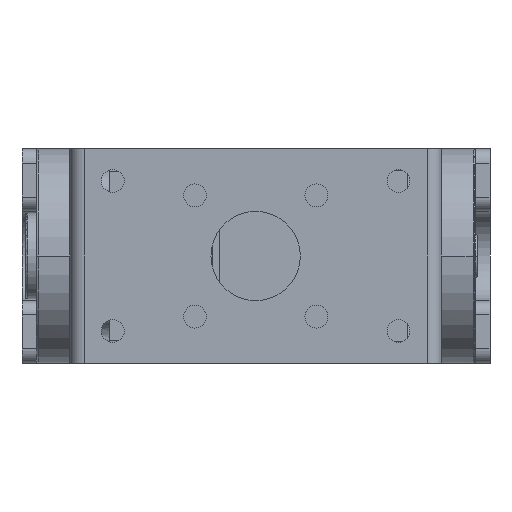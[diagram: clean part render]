
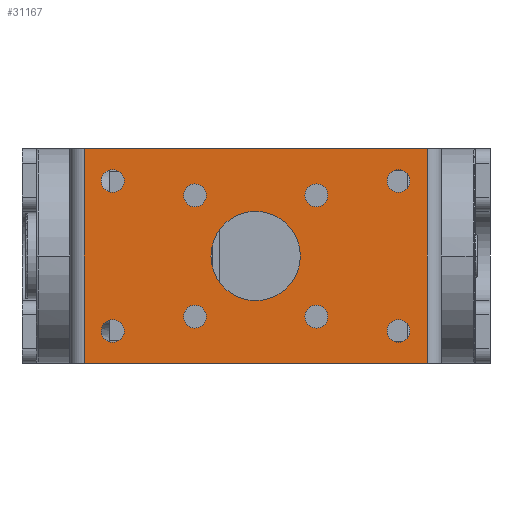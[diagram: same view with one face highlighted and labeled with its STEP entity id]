
A CAD part, left-side view. The second image highlights one B-rep face of the part: STEP entity #31167.
In plain terms, the highlighted planar face has unit normal (-1, 0, 0).
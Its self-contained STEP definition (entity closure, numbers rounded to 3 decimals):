
#29739=DIRECTION('',(0.,1.,0.));
#29740=VECTOR('',#29739,48.);
#29741=CARTESIAN_POINT('',(-40.,-31.5,15.));
#29742=LINE('',#29741,#29740);
#29842=DIRECTION('',(0.,0.,1.));
#29843=VECTOR('',#29842,30.);
#29844=CARTESIAN_POINT('',(-40.,16.5,-15.));
#29845=LINE('',#29844,#29843);
#29846=DIRECTION('',(0.,0.,-1.));
#29847=VECTOR('',#29846,30.);
#29848=CARTESIAN_POINT('',(-40.,-31.5,15.));
#29849=LINE('',#29848,#29847);
#29850=DIRECTION('',(0.,1.,0.));
#29851=VECTOR('',#29850,48.);
#29852=CARTESIAN_POINT('',(-40.,-31.5,-15.));
#29853=LINE('',#29852,#29851);
#29854=CARTESIAN_POINT('',(-40.,-7.5,0.));
#29855=DIRECTION('',(-1.,0.,0.));
#29856=DIRECTION('',(0.,0.,-1.));
#29857=AXIS2_PLACEMENT_3D('',#29854,#29855,#29856);
#29859=CARTESIAN_POINT('',(-40.,-7.5,0.));
#29860=DIRECTION('',(-1.,0.,0.));
#29861=DIRECTION('',(0.,0.,1.));
#29862=AXIS2_PLACEMENT_3D('',#29859,#29860,#29861);
#29864=CARTESIAN_POINT('',(-40.,1.,-8.5));
#29865=DIRECTION('',(-1.,0.,0.));
#29866=DIRECTION('',(0.,0.,1.));
#29867=AXIS2_PLACEMENT_3D('',#29864,#29865,#29866);
#29869=CARTESIAN_POINT('',(-40.,1.,-8.5));
#29870=DIRECTION('',(-1.,0.,0.));
#29871=DIRECTION('',(0.,0.,-1.));
#29872=AXIS2_PLACEMENT_3D('',#29869,#29870,#29871);
#29874=CARTESIAN_POINT('',(-40.,1.,8.5));
#29875=DIRECTION('',(-1.,0.,0.));
#29876=DIRECTION('',(0.,0.,1.));
#29877=AXIS2_PLACEMENT_3D('',#29874,#29875,#29876);
#29879=CARTESIAN_POINT('',(-40.,1.,8.5));
#29880=DIRECTION('',(-1.,0.,0.));
#29881=DIRECTION('',(0.,0.,-1.));
#29882=AXIS2_PLACEMENT_3D('',#29879,#29880,#29881);
#29884=CARTESIAN_POINT('',(-40.,-16.,-8.5));
#29885=DIRECTION('',(-1.,0.,0.));
#29886=DIRECTION('',(0.,0.,1.));
#29887=AXIS2_PLACEMENT_3D('',#29884,#29885,#29886);
#29889=CARTESIAN_POINT('',(-40.,-16.,-8.5));
#29890=DIRECTION('',(-1.,0.,0.));
#29891=DIRECTION('',(0.,0.,-1.));
#29892=AXIS2_PLACEMENT_3D('',#29889,#29890,#29891);
#29894=CARTESIAN_POINT('',(-40.,-16.,8.5));
#29895=DIRECTION('',(-1.,0.,0.));
#29896=DIRECTION('',(0.,0.,1.));
#29897=AXIS2_PLACEMENT_3D('',#29894,#29895,#29896);
#29899=CARTESIAN_POINT('',(-40.,-16.,8.5));
#29900=DIRECTION('',(-1.,0.,0.));
#29901=DIRECTION('',(0.,0.,-1.));
#29902=AXIS2_PLACEMENT_3D('',#29899,#29900,#29901);
#29904=CARTESIAN_POINT('',(-40.,12.5,10.5));
#29905=DIRECTION('',(1.,0.,0.));
#29906=DIRECTION('',(0.,0.,-1.));
#29907=AXIS2_PLACEMENT_3D('',#29904,#29905,#29906);
#29909=CARTESIAN_POINT('',(-40.,12.5,10.5));
#29910=DIRECTION('',(1.,0.,0.));
#29911=DIRECTION('',(0.,0.,1.));
#29912=AXIS2_PLACEMENT_3D('',#29909,#29910,#29911);
#29914=CARTESIAN_POINT('',(-40.,12.5,-10.5));
#29915=DIRECTION('',(1.,0.,0.));
#29916=DIRECTION('',(0.,0.,-1.));
#29917=AXIS2_PLACEMENT_3D('',#29914,#29915,#29916);
#29919=CARTESIAN_POINT('',(-40.,12.5,-10.5));
#29920=DIRECTION('',(1.,0.,0.));
#29921=DIRECTION('',(0.,0.,1.));
#29922=AXIS2_PLACEMENT_3D('',#29919,#29920,#29921);
#29924=CARTESIAN_POINT('',(-40.,-27.5,10.5));
#29925=DIRECTION('',(1.,0.,0.));
#29926=DIRECTION('',(0.,0.,-1.));
#29927=AXIS2_PLACEMENT_3D('',#29924,#29925,#29926);
#29929=CARTESIAN_POINT('',(-40.,-27.5,10.5));
#29930=DIRECTION('',(1.,0.,0.));
#29931=DIRECTION('',(0.,0.,1.));
#29932=AXIS2_PLACEMENT_3D('',#29929,#29930,#29931);
#29934=CARTESIAN_POINT('',(-40.,-27.5,-10.5));
#29935=DIRECTION('',(1.,0.,0.));
#29936=DIRECTION('',(0.,0.,-1.));
#29937=AXIS2_PLACEMENT_3D('',#29934,#29935,#29936);
#29939=CARTESIAN_POINT('',(-40.,-27.5,-10.5));
#29940=DIRECTION('',(1.,0.,0.));
#29941=DIRECTION('',(0.,0.,1.));
#29942=AXIS2_PLACEMENT_3D('',#29939,#29940,#29941);
#30021=CARTESIAN_POINT('',(-40.,16.5,15.));
#30023=VERTEX_POINT('',#30021);
#30024=CARTESIAN_POINT('',(-40.,16.5,-15.));
#30025=VERTEX_POINT('',#30024);
#30029=CARTESIAN_POINT('',(-40.,-31.5,-15.));
#30031=VERTEX_POINT('',#30029);
#30032=CARTESIAN_POINT('',(-40.,-31.5,15.));
#30033=VERTEX_POINT('',#30032);
#30116=CARTESIAN_POINT('',(-40.,-7.5,-6.25));
#30117=CARTESIAN_POINT('',(-40.,-7.5,6.25));
#30118=VERTEX_POINT('',#30116);
#30119=VERTEX_POINT('',#30117);
#30124=CARTESIAN_POINT('',(-40.,1.,-6.9));
#30125=CARTESIAN_POINT('',(-40.,1.,-10.1));
#30126=VERTEX_POINT('',#30124);
#30127=VERTEX_POINT('',#30125);
#30128=CARTESIAN_POINT('',(-40.,1.,10.1));
#30129=CARTESIAN_POINT('',(-40.,1.,6.9));
#30130=VERTEX_POINT('',#30128);
#30131=VERTEX_POINT('',#30129);
#30132=CARTESIAN_POINT('',(-40.,-16.,-6.9));
#30133=CARTESIAN_POINT('',(-40.,-16.,-10.1));
#30134=VERTEX_POINT('',#30132);
#30135=VERTEX_POINT('',#30133);
#30136=CARTESIAN_POINT('',(-40.,-16.,10.1));
#30137=CARTESIAN_POINT('',(-40.,-16.,6.9));
#30138=VERTEX_POINT('',#30136);
#30139=VERTEX_POINT('',#30137);
#30236=CARTESIAN_POINT('',(-40.,12.5,8.9));
#30237=CARTESIAN_POINT('',(-40.,12.5,12.1));
#30238=VERTEX_POINT('',#30236);
#30239=VERTEX_POINT('',#30237);
#30240=CARTESIAN_POINT('',(-40.,12.5,-12.1));
#30241=CARTESIAN_POINT('',(-40.,12.5,-8.9));
#30242=VERTEX_POINT('',#30240);
#30243=VERTEX_POINT('',#30241);
#30244=CARTESIAN_POINT('',(-40.,-27.5,8.9));
#30245=CARTESIAN_POINT('',(-40.,-27.5,12.1));
#30246=VERTEX_POINT('',#30244);
#30247=VERTEX_POINT('',#30245);
#30248=CARTESIAN_POINT('',(-40.,-27.5,-12.1));
#30249=CARTESIAN_POINT('',(-40.,-27.5,-8.9));
#30250=VERTEX_POINT('',#30248);
#30251=VERTEX_POINT('',#30249);
#31102=CARTESIAN_POINT('',(-40.,-33.5,-15.));
#31103=DIRECTION('',(-1.,0.,0.));
#31104=DIRECTION('',(0.,0.,1.));
#31105=AXIS2_PLACEMENT_3D('',#31102,#31103,#31104);
#31106=PLANE('',#31105);
#31107=ORIENTED_EDGE('',*,*,#30979,.T.);
#31108=ORIENTED_EDGE('',*,*,#31002,.F.);
#31110=ORIENTED_EDGE('',*,*,#31109,.T.);
#31111=ORIENTED_EDGE('',*,*,#30958,.T.);
#31112=EDGE_LOOP('',(#31107,#31108,#31110,#31111));
#31113=FACE_OUTER_BOUND('',#31112,.F.);
#31114=ORIENTED_EDGE('',*,*,#31092,.T.);
#31116=ORIENTED_EDGE('',*,*,#31115,.T.);
#31117=EDGE_LOOP('',(#31114,#31116));
#31118=FACE_BOUND('',#31117,.F.);
#31120=ORIENTED_EDGE('',*,*,#31119,.T.);
#31122=ORIENTED_EDGE('',*,*,#31121,.T.);
#31123=EDGE_LOOP('',(#31120,#31122));
#31124=FACE_BOUND('',#31123,.F.);
#31126=ORIENTED_EDGE('',*,*,#31125,.T.);
#31128=ORIENTED_EDGE('',*,*,#31127,.T.);
#31129=EDGE_LOOP('',(#31126,#31128));
#31130=FACE_BOUND('',#31129,.F.);
#31132=ORIENTED_EDGE('',*,*,#31131,.T.);
#31134=ORIENTED_EDGE('',*,*,#31133,.T.);
#31135=EDGE_LOOP('',(#31132,#31134));
#31136=FACE_BOUND('',#31135,.F.);
#31138=ORIENTED_EDGE('',*,*,#31137,.T.);
#31140=ORIENTED_EDGE('',*,*,#31139,.T.);
#31141=EDGE_LOOP('',(#31138,#31140));
#31142=FACE_BOUND('',#31141,.F.);
#31144=ORIENTED_EDGE('',*,*,#31143,.F.);
#31146=ORIENTED_EDGE('',*,*,#31145,.F.);
#31147=EDGE_LOOP('',(#31144,#31146));
#31148=FACE_BOUND('',#31147,.F.);
#31150=ORIENTED_EDGE('',*,*,#31149,.F.);
#31152=ORIENTED_EDGE('',*,*,#31151,.F.);
#31153=EDGE_LOOP('',(#31150,#31152));
#31154=FACE_BOUND('',#31153,.F.);
#31156=ORIENTED_EDGE('',*,*,#31155,.F.);
#31158=ORIENTED_EDGE('',*,*,#31157,.F.);
#31159=EDGE_LOOP('',(#31156,#31158));
#31160=FACE_BOUND('',#31159,.F.);
#31162=ORIENTED_EDGE('',*,*,#31161,.F.);
#31164=ORIENTED_EDGE('',*,*,#31163,.F.);
#31165=EDGE_LOOP('',(#31162,#31164));
#31166=FACE_BOUND('',#31165,.F.);
#31167=ADVANCED_FACE('',(#31113,#31118,#31124,#31130,#31136,#31142,#31148,
#31154,#31160,#31166),#31106,.T.);
#29858=CIRCLE('',#29857,6.25);
#29863=CIRCLE('',#29862,6.25);
#29868=CIRCLE('',#29867,1.6);
#29873=CIRCLE('',#29872,1.6);
#29878=CIRCLE('',#29877,1.6);
#29883=CIRCLE('',#29882,1.6);
#29888=CIRCLE('',#29887,1.6);
#29893=CIRCLE('',#29892,1.6);
#29898=CIRCLE('',#29897,1.6);
#29903=CIRCLE('',#29902,1.6);
#29908=CIRCLE('',#29907,1.6);
#29913=CIRCLE('',#29912,1.6);
#29918=CIRCLE('',#29917,1.6);
#29923=CIRCLE('',#29922,1.6);
#29928=CIRCLE('',#29927,1.6);
#29933=CIRCLE('',#29932,1.6);
#29938=CIRCLE('',#29937,1.6);
#29943=CIRCLE('',#29942,1.6);
#30958=EDGE_CURVE('',#30031,#30025,#29853,.T.);
#30979=EDGE_CURVE('',#30025,#30023,#29845,.T.);
#31002=EDGE_CURVE('',#30033,#30023,#29742,.T.);
#31092=EDGE_CURVE('',#30118,#30119,#29858,.T.);
#31109=EDGE_CURVE('',#30033,#30031,#29849,.T.);
#31115=EDGE_CURVE('',#30119,#30118,#29863,.T.);
#31119=EDGE_CURVE('',#30126,#30127,#29868,.T.);
#31121=EDGE_CURVE('',#30127,#30126,#29873,.T.);
#31125=EDGE_CURVE('',#30130,#30131,#29878,.T.);
#31127=EDGE_CURVE('',#30131,#30130,#29883,.T.);
#31131=EDGE_CURVE('',#30134,#30135,#29888,.T.);
#31133=EDGE_CURVE('',#30135,#30134,#29893,.T.);
#31137=EDGE_CURVE('',#30138,#30139,#29898,.T.);
#31139=EDGE_CURVE('',#30139,#30138,#29903,.T.);
#31143=EDGE_CURVE('',#30238,#30239,#29908,.T.);
#31145=EDGE_CURVE('',#30239,#30238,#29913,.T.);
#31149=EDGE_CURVE('',#30242,#30243,#29918,.T.);
#31151=EDGE_CURVE('',#30243,#30242,#29923,.T.);
#31155=EDGE_CURVE('',#30246,#30247,#29928,.T.);
#31157=EDGE_CURVE('',#30247,#30246,#29933,.T.);
#31161=EDGE_CURVE('',#30250,#30251,#29938,.T.);
#31163=EDGE_CURVE('',#30251,#30250,#29943,.T.);
